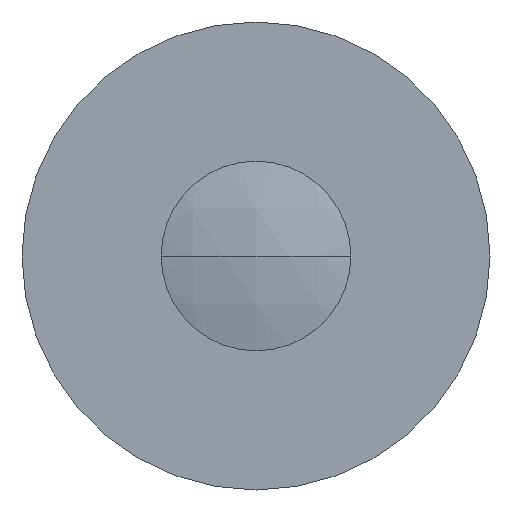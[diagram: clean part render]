
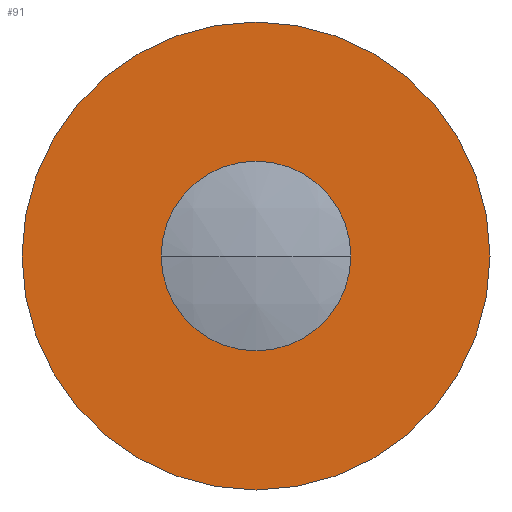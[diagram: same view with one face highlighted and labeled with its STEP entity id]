
A CAD part, front view. The second image highlights one B-rep face of the part: STEP entity #91.
In plain terms, the highlighted planar face has unit normal (0, -1, 0).
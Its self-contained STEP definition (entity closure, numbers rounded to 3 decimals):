
#91=ADVANCED_FACE('',(#132,#133),#134,.F.);
#132=FACE_OUTER_BOUND('',#179,.T.);
#133=FACE_BOUND('',#180,.T.);
#134=PLANE('',#181);
#179=EDGE_LOOP('',(#312,#313));
#180=EDGE_LOOP('',(#314,#315));
#181=AXIS2_PLACEMENT_3D('',#316,#317,#318);
#312=ORIENTED_EDGE('',*,*,#387,.T.);
#313=ORIENTED_EDGE('',*,*,#384,.T.);
#314=ORIENTED_EDGE('',*,*,#388,.F.);
#315=ORIENTED_EDGE('',*,*,#389,.F.);
#316=CARTESIAN_POINT('',(-29.0,-7.0,0.0));
#317=DIRECTION('',(-0.0,1.0,0.0));
#318=DIRECTION('',(1.0,0.0,0.0));
#384=EDGE_CURVE('',#448,#450,#452,.T.);
#387=EDGE_CURVE('',#450,#448,#457,.T.);
#388=EDGE_CURVE('',#458,#459,#460,.T.);
#389=EDGE_CURVE('',#459,#458,#461,.T.);
#448=VERTEX_POINT('',#547);
#450=VERTEX_POINT('',#550);
#452=CIRCLE('',#553,29.0);
#457=CIRCLE('',#558,29.0);
#458=VERTEX_POINT('',#559);
#459=VERTEX_POINT('',#560);
#460=CIRCLE('',#561,11.75);
#461=CIRCLE('',#562,11.75);
#547=CARTESIAN_POINT('',(0.,-7.0,29.0));
#550=CARTESIAN_POINT('',(0.0,-7.0,-29.0));
#553=AXIS2_PLACEMENT_3D('',#624,#625,#626);
#558=AXIS2_PLACEMENT_3D('',#633,#634,#635);
#559=CARTESIAN_POINT('',(-11.75,-7.0,0.0));
#560=CARTESIAN_POINT('',(11.75,-7.0,0.));
#561=AXIS2_PLACEMENT_3D('',#636,#637,#638);
#562=AXIS2_PLACEMENT_3D('',#639,#640,#641);
#624=CARTESIAN_POINT('',(0.0,-7.0,0.0));
#625=DIRECTION('',(0.0,-1.0,0.0));
#626=DIRECTION('',(0.0,0.0,-1.0));
#633=CARTESIAN_POINT('',(0.0,-7.0,0.0));
#634=DIRECTION('',(0.0,-1.0,0.0));
#635=DIRECTION('',(0.0,0.0,-1.0));
#636=CARTESIAN_POINT('',(0.0,-7.0,0.0));
#637=DIRECTION('',(0.0,-1.0,0.0));
#638=DIRECTION('',(0.0,0.0,-1.0));
#639=CARTESIAN_POINT('',(0.0,-7.0,0.0));
#640=DIRECTION('',(0.0,-1.0,0.0));
#641=DIRECTION('',(0.0,0.0,-1.0));
